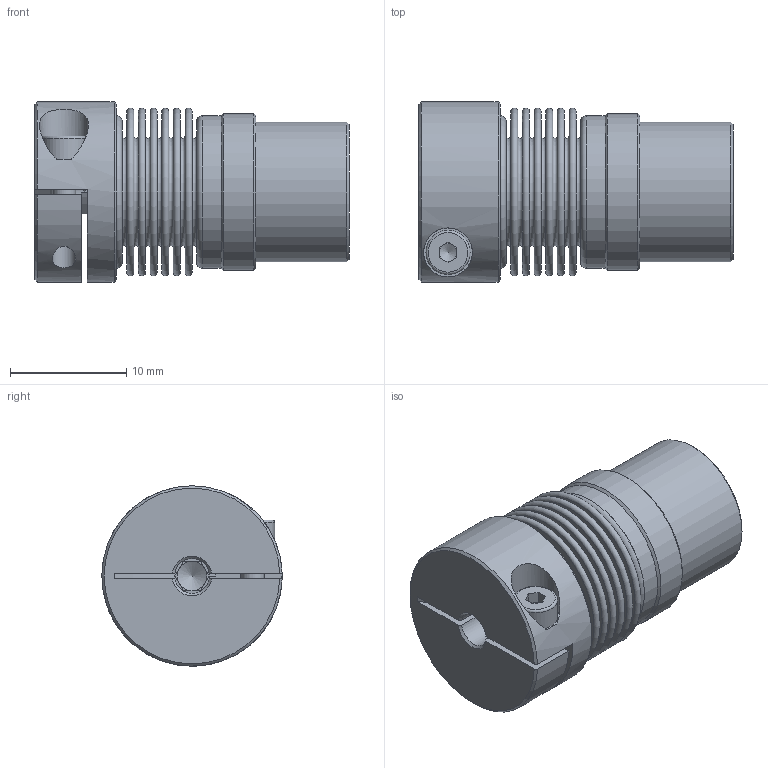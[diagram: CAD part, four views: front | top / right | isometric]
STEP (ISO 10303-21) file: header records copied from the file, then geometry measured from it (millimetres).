
FILE_DESCRIPTION( ( 'Unknown' ), '1' );
FILE_NAME( 'K:/Konstruktion/cad kunden/3D - Daten/KB3/KB3-5-20.stp', 'Unknown', ( 'Unknown' ), ( 'Unknown' ), 'PSStep 16.0.42', 'Unknown', ' ' );
FILE_SCHEMA( ( 'AUTOMOTIVE_DESIGN { 1 0 10303 214 1 1 1 1 }' ) );
Length unit declared in the file: millimetre
Products named in the file (6): Assem1; Socket Head Cap Screw_DIN_DIN 912 M2 x 8 --- 8N_5; Socket Head Cap Screw_DIN_DIN 912 M3 x 10 --- 10N_4; KN5_Standard_2; SN5-10; BK5_Standard_0
Assembly tree (5 placements, depth 2):
  Assem1
    Socket Head Cap Screw_DIN_DIN 912 M2 x 8 --- 8N_5
    Socket Head Cap Screw_DIN_DIN 912 M3 x 10 --- 10N_4
    KN5_Standard_2
    SN5-10
    BK5_Standard_0
Bounding box: 27 x 15.5 x 15.5 mm (x, y, z)
Volume: 2997.9 mm3; surface area: 5338.5 mm2
Topology: 5 solids, 5 shells, 141 faces, 275 edges, 176 vertices
Faces by surface type: plane 75, torus 34, cylinder 20, cone 12
Full cylindrical faces by diameter (mm): 2 x2, 2.2 x1, 2.5 x1, 3 x2, 3.8 x1, 5.5 x1, 12 x1, 12.9 x3, 13.1 x2, 13.5 x1, 15.5 x1
Entity records: 4622 total; most frequent: CARTESIAN_POINT 643, DIRECTION 614, ORIENTED_EDGE 410, AXIS2_PLACEMENT_3D 272, EDGE_LOOP 242, EDGE_CURVE 205, FACE_OUTER_BOUND 191, VERTEX_POINT 179
